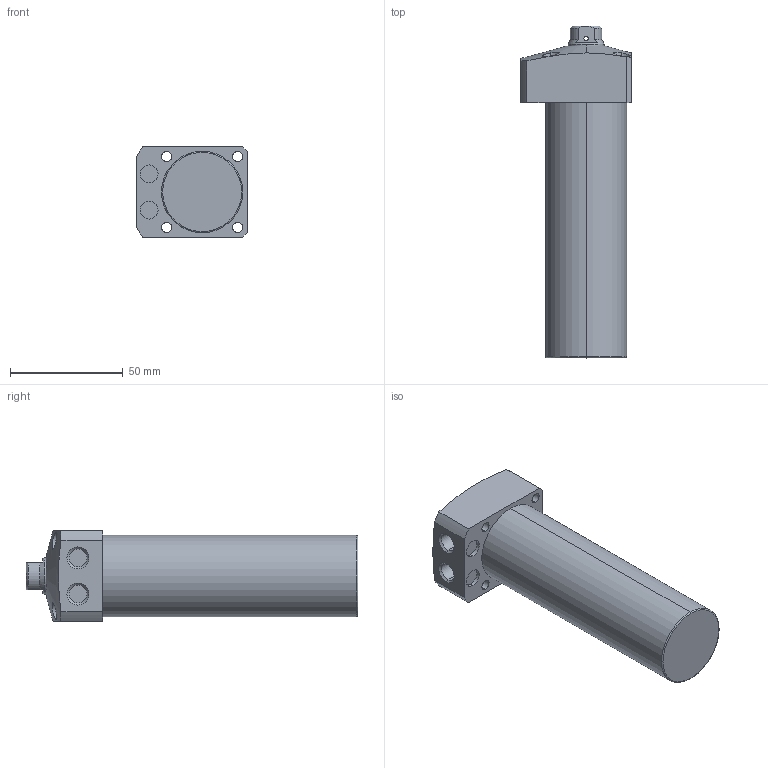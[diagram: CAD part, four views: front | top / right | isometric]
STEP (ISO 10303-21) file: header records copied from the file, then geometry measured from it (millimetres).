
FILE_DESCRIPTION (( 'STEP AP203' ), '1' );
FILE_NAME ('CLL-036CB-090.STEP', '2019-12-21T02:32:08', ( '' ), ( '' ), 'SwSTEP 2.0', 'SolidWorks 2015', '' );
FILE_SCHEMA (( 'CONFIG_CONTROL_DESIGN' ));
Length unit declared in the file: millimetre
Products named in the file (1): CLL-036CB-090
Bounding box: 49 x 147 x 40 mm (x, y, z)
Volume: 156440.1 mm3; surface area: 22988.1 mm2
Topology: 1 solids, 1 shells, 76 faces, 184 edges, 117 vertices
Faces by surface type: cylinder 38, plane 22, cone 14, torus 2
Entity records: 2699 total; most frequent: CARTESIAN_POINT 814, DIRECTION 386, ORIENTED_EDGE 364, EDGE_CURVE 182, AXIS2_PLACEMENT_3D 159, VERTEX_POINT 117, EDGE_LOOP 97, CIRCLE 82
